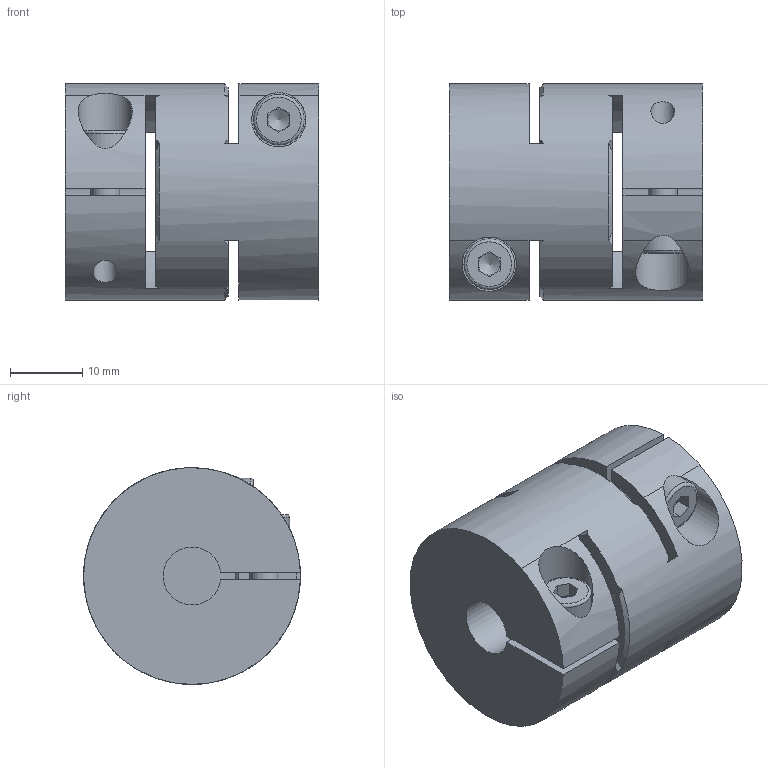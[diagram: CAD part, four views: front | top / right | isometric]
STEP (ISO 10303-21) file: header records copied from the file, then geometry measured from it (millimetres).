
FILE_DESCRIPTION( ( 'Unknown' ), '1' );
FILE_NAME( 'F:/JAKOB-STEP+IGES-Dateien/STEP-Dateien/MJT-C/MJT-C 30.stp', 'Unknown', ( 'Unknown' ), ( 'Unknown' ), 'PSStep 10.1', 'Unknown', ' ' );
FILE_SCHEMA( ( 'AUTOMOTIVE_DESIGN { 1 0 10303 214 1 1 1 1 }' ) );
Length unit declared in the file: millimetre
Products named in the file (1): M J T 30 2
Bounding box: 35 x 30 x 30 mm (x, y, z)
Volume: 20219.9 mm3; surface area: 8870.4 mm2
Topology: 1 solids, 1 shells, 127 faces, 321 edges, 202 vertices
Faces by surface type: plane 48, cylinder 41, cone 36, torus 2
Full cylindrical faces by diameter (mm): 3.3 x2, 4 x2, 4.5 x2, 7 x2, 7.5 x2, 12 x2, 30 x1
Entity records: 5410 total; most frequent: CARTESIAN_POINT 1506, DIRECTION 640, ORIENTED_EDGE 560, EDGE_CURVE 280, AXIS2_PLACEMENT_3D 276, VERTEX_POINT 186, EDGE_LOOP 160, CIRCLE 150
